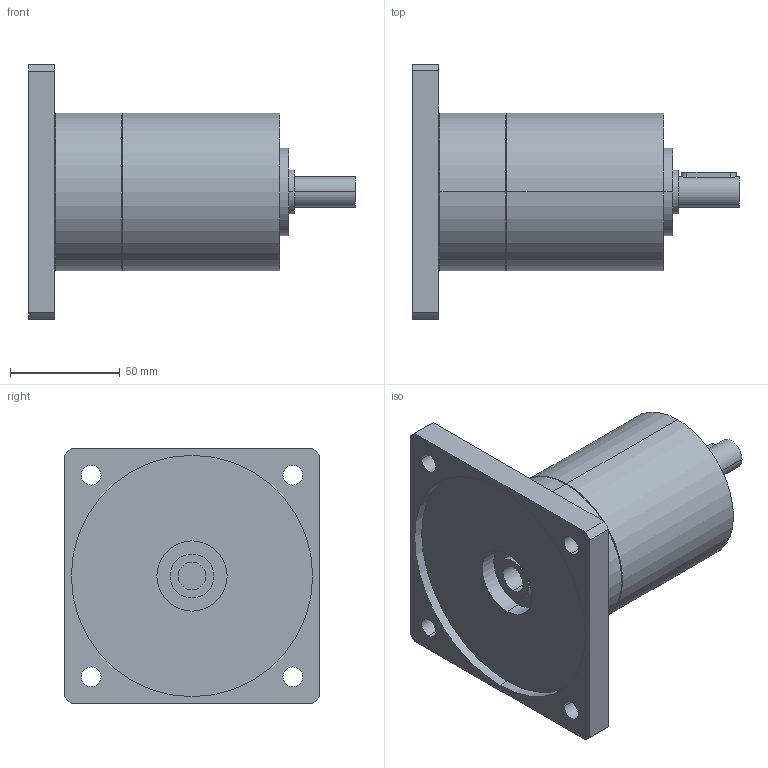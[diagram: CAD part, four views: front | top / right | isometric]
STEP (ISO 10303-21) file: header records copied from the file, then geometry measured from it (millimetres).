
FILE_DESCRIPTION(('CoCreate Modeling STEP Export'),'2;1');
FILE_NAME('GPT75_ig-9-12-16-20-25-28-35-40-50-70-100_14_B14T_12.7_P09.stp','2014-08-27T13:09:04',(''),(''),'CoCreate Modeling STEP processor for AP214 (Solid Model)','CoCreate Modeling 16.00C 25-Feb-2009 (C) Parametric Technology GmbH','');
FILE_SCHEMA(('AUTOMOTIVE_DESIGN { 1 0 10303 214 1 1 1 1 }'));
Length unit declared in the file: millimetre
Products named in the file (2): GPT75_ig-9-12-16-20-25-28-35-40-50-70-100_14_B14T_12.7_P09
Assembly tree (1 placements, depth 2):
  GPT75_ig-9-12-16-20-25-28-35-40-50-70-100_14_B14T_12.7_P09
    GPT75_ig-9-12-16-20-25-28-35-40-50-70-100_14_B14T_12.7_P09
Bounding box: 149 x 116 x 116 mm (x, y, z)
Volume: 533099.8 mm3; surface area: 63359.4 mm2
Topology: 1 solids, 1 shells, 69 faces, 166 edges, 113 vertices
Faces by surface type: cylinder 42, plane 23, cone 4
Entity records: 2161 total; most frequent: CARTESIAN_POINT 664, ORIENTED_EDGE 332, DIRECTION 262, EDGE_CURVE 166, VERTEX_POINT 113, AXIS2_PLACEMENT_3D 99, EDGE_LOOP 91, FACE_OUTER_BOUND 69
